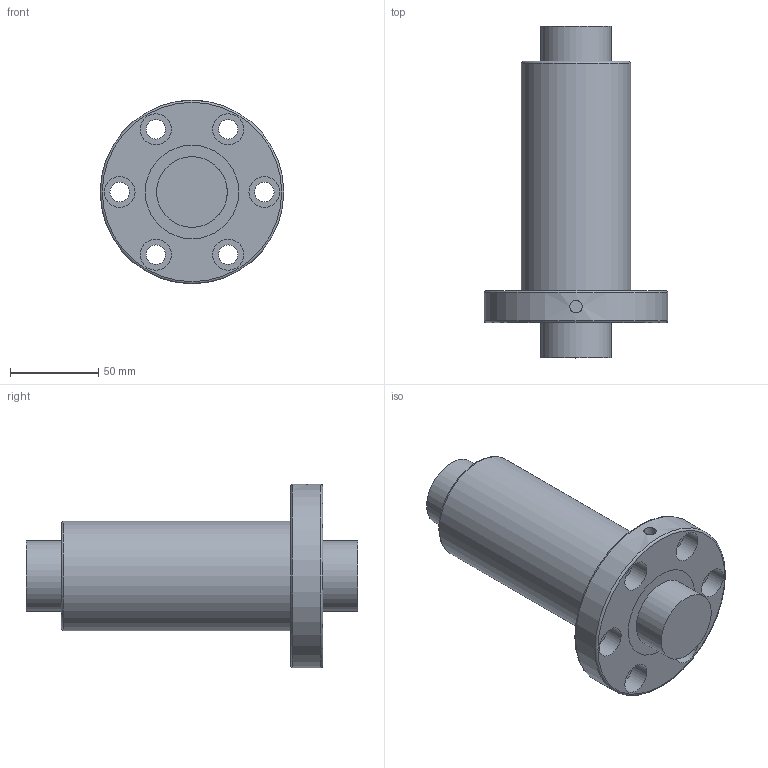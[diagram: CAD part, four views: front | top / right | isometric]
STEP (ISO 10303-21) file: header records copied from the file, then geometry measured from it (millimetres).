
FILE_DESCRIPTION(/* description */ (''),/* implementation_level */ '2;1');
FILE_NAME(/* name */ 'OFI04010-4.stp',/* time_stamp */ '2017-03-13T10:45:41+08:00',/* author */ (''),/* organization */ (''),/* preprocessor_version */ 'ST-DEVELOPER v11',/* originating_system */ 'SIEMENS UGS NX 6.0',/* authorisation */ '');
FILE_SCHEMA (('CONFIG_CONTROL_DESIGN'));
Length unit declared in the file: millimetre
Products named in the file (1): OFI04010-4
Bounding box: 104 x 188 x 104 mm (x, y, z)
Volume: 575334.2 mm3; surface area: 100819.7 mm2
Topology: 4 solids, 4 shells, 44 faces, 81 edges, 54 vertices
Faces by surface type: cylinder 23, plane 18, torus 3
Full cylindrical faces by diameter (mm): 7 x1, 11 x6, 17.5 x6, 40 x4, 53 x4, 62 x1, 104 x1
Entity records: 1104 total; most frequent: CARTESIAN_POINT 200, DIRECTION 186, EDGE_LOOP 98, ORIENTED_EDGE 98, FACE_BOUND 95, AXIS2_PLACEMENT_3D 93, VERTEX_POINT 49, EDGE_CURVE 49
